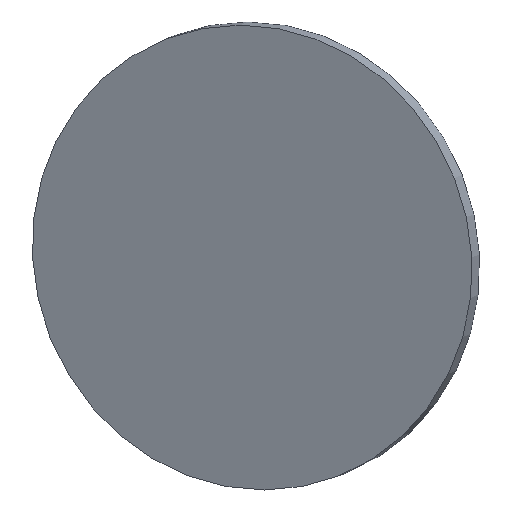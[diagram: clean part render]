
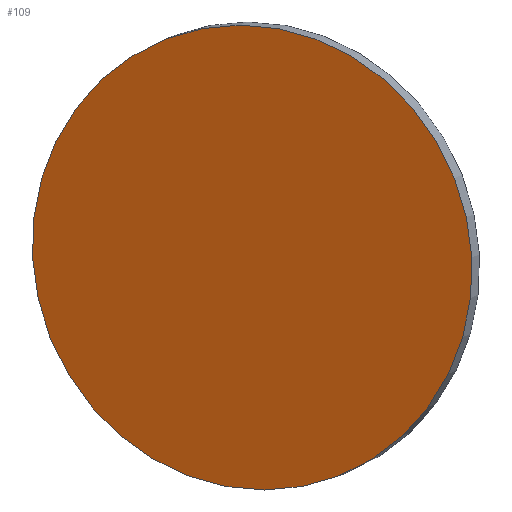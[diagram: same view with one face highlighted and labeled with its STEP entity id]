
A CAD part, front view. The second image highlights one B-rep face of the part: STEP entity #109.
In plain terms, the highlighted planar face has unit normal (-0.351, -0.925, -0.145).
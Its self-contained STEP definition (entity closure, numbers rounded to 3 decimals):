
#31 = CYLINDRICAL_SURFACE('',#32,16.3);
#32 = AXIS2_PLACEMENT_3D('',#33,#34,#35);
#33 = CARTESIAN_POINT('',(104.255,364.745,43.068
    ));
#34 = DIRECTION('',(0.351,0.925,0.145));
#35 = DIRECTION('',(0.935,-0.355,0.)
  );
#56 = VERTEX_POINT('',#57);
#57 = CARTESIAN_POINT('',(119.494,358.963,
    43.068));
#78 = EDGE_CURVE('',#56,#56,#79,.T.);
#79 = SURFACE_CURVE('',#80,(#85,#92),.PCURVE_S1.);
#80 = CIRCLE('',#81,16.3);
#81 = AXIS2_PLACEMENT_3D('',#82,#83,#84);
#82 = CARTESIAN_POINT('',(104.255,364.745,43.068
    ));
#83 = DIRECTION('',(0.351,0.925,0.145));
#84 = DIRECTION('',(0.935,-0.355,0.)
  );
#85 = PCURVE('',#31,#86);
#86 = DEFINITIONAL_REPRESENTATION('',(#87),#91);
#87 = LINE('',#88,#89);
#88 = CARTESIAN_POINT('',(0.,0.));
#89 = VECTOR('',#90,1.);
#90 = DIRECTION('',(1.,0.));
#91 = ( GEOMETRIC_REPRESENTATION_CONTEXT(2) 
PARAMETRIC_REPRESENTATION_CONTEXT() REPRESENTATION_CONTEXT('2D SPACE',''
  ) );
#92 = PCURVE('',#93,#98);
#93 = PLANE('',#94);
#94 = AXIS2_PLACEMENT_3D('',#95,#96,#97);
#95 = CARTESIAN_POINT('',(104.255,364.745,43.068
    ));
#96 = DIRECTION('',(0.351,0.925,0.145));
#97 = DIRECTION('',(0.935,-0.355,0.)
  );
#98 = DEFINITIONAL_REPRESENTATION('',(#99),#103);
#99 = CIRCLE('',#100,16.3);
#100 = AXIS2_PLACEMENT_2D('',#101,#102);
#101 = CARTESIAN_POINT('',(0.,0.));
#102 = DIRECTION('',(1.,0.));
#103 = ( GEOMETRIC_REPRESENTATION_CONTEXT(2) 
PARAMETRIC_REPRESENTATION_CONTEXT() REPRESENTATION_CONTEXT('2D SPACE',''
  ) );
#109 = ADVANCED_FACE('',(#110),#93,.F.);
#110 = FACE_BOUND('',#111,.T.);
#111 = EDGE_LOOP('',(#112));
#112 = ORIENTED_EDGE('',*,*,#78,.F.);
